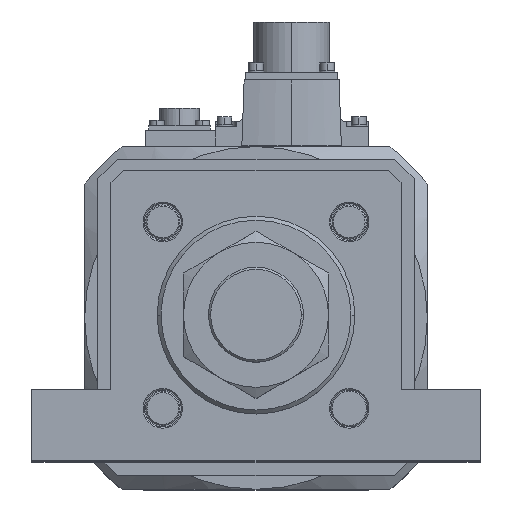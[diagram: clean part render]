
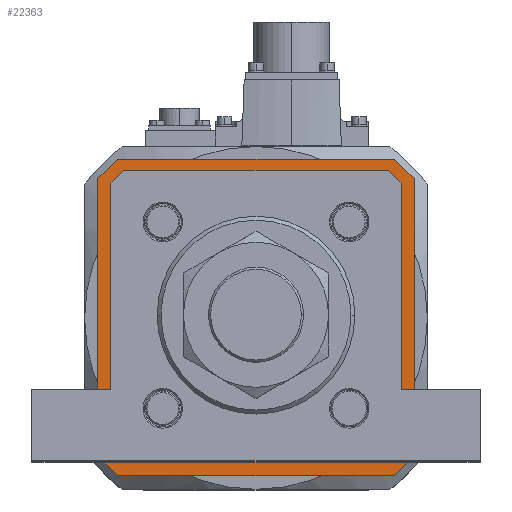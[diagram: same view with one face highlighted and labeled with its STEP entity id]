
A CAD part, top view. The second image highlights one B-rep face of the part: STEP entity #22363.
In plain terms, the highlighted planar face has unit normal (0, 0, 1) as drawn and (0, 0, -1) by its records, which use the part's own axes.
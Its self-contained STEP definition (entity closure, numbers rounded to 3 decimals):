
#191 = LINE ( 'NONE', #21604, #34297 ) ;
#701 = EDGE_CURVE ( 'NONE', #22434, #22728, #35879, .T. ) ;
#723 = LINE ( 'NONE', #7200, #23350 ) ;
#843 = VECTOR ( 'NONE', #15815, 1000. ) ;
#1149 = LINE ( 'NONE', #36408, #19638 ) ;
#1779 = LINE ( 'NONE', #4004, #9184 ) ;
#1838 = VERTEX_POINT ( 'NONE', #11925 ) ;
#2252 = VECTOR ( 'NONE', #14440, 1000. ) ;
#2886 = EDGE_CURVE ( 'NONE', #15665, #31906, #15079, .T. ) ;
#2961 = CARTESIAN_POINT ( 'NONE',  ( -49.593, -53.5, 52. ) ) ;
#2995 = VECTOR ( 'NONE', #10804, 1000. ) ;
#3031 = CARTESIAN_POINT ( 'NONE',  ( 60., 60., 52. ) ) ;
#3195 = ORIENTED_EDGE ( 'NONE', *, *, #9940, .F. ) ;
#3898 = DIRECTION ( 'NONE',  ( 0.707, 0.707, 0. ) ) ;
#4004 = CARTESIAN_POINT ( 'NONE',  ( -51.546, -51.546, 52. ) ) ;
#5116 = LINE ( 'NONE', #13487, #37386 ) ;
#5178 = VERTEX_POINT ( 'NONE', #17798 ) ;
#5656 = CARTESIAN_POINT ( 'NONE',  ( 60., 52.5, 52. ) ) ;
#5697 = CARTESIAN_POINT ( 'NONE',  ( 60., -52.5, 52. ) ) ;
#5796 = DIRECTION ( 'NONE',  ( 1., 0., 0. ) ) ;
#5819 = LINE ( 'NONE', #17571, #17369 ) ;
#6165 = EDGE_CURVE ( 'NONE', #9324, #10162, #5116, .T. ) ;
#6390 = DIRECTION ( 'NONE',  ( 0., 1., 0. ) ) ;
#6546 = CARTESIAN_POINT ( 'NONE',  ( -52.5, 60., 52. ) ) ;
#6695 = ORIENTED_EDGE ( 'NONE', *, *, #26139, .T. ) ;
#6697 = ORIENTED_EDGE ( 'NONE', *, *, #29635, .F. ) ;
#6770 = CARTESIAN_POINT ( 'NONE',  ( -49.8, 53.5, 52. ) ) ;
#7121 = VERTEX_POINT ( 'NONE', #9507 ) ;
#7200 = CARTESIAN_POINT ( 'NONE',  ( 60., -52.5, 52. ) ) ;
#7314 = DIRECTION ( 'NONE',  ( -1., 0., 0. ) ) ;
#7471 = ORIENTED_EDGE ( 'NONE', *, *, #701, .T. ) ;
#8043 = ORIENTED_EDGE ( 'NONE', *, *, #18272, .T. ) ;
#8472 = ORIENTED_EDGE ( 'NONE', *, *, #6165, .T. ) ;
#8599 = ORIENTED_EDGE ( 'NONE', *, *, #24141, .T. ) ;
#8826 = ORIENTED_EDGE ( 'NONE', *, *, #26475, .T. ) ;
#9002 = VECTOR ( 'NONE', #36535, 1000. ) ;
#9184 = VECTOR ( 'NONE', #18631, 1000. ) ;
#9256 = CARTESIAN_POINT ( 'NONE',  ( -53.5, -49.8, 52. ) ) ;
#9324 = VERTEX_POINT ( 'NONE', #34930 ) ;
#9507 = CARTESIAN_POINT ( 'NONE',  ( 49.593, -53.5, 52. ) ) ;
#9940 = EDGE_CURVE ( 'NONE', #9324, #17112, #30632, .T. ) ;
#10010 = CARTESIAN_POINT ( 'NONE',  ( -60., -52.5, 52. ) ) ;
#10068 = ORIENTED_EDGE ( 'NONE', *, *, #34553, .T. ) ;
#10162 = VERTEX_POINT ( 'NONE', #10010 ) ;
#10563 = CARTESIAN_POINT ( 'NONE',  ( -60., 52.5, 52. ) ) ;
#10617 = ORIENTED_EDGE ( 'NONE', *, *, #17050, .T. ) ;
#10804 = DIRECTION ( 'NONE',  ( -0.707, 0.707, 0. ) ) ;
#11228 = CARTESIAN_POINT ( 'NONE',  ( -60., 52.5, 52. ) ) ;
#11298 = VERTEX_POINT ( 'NONE', #13125 ) ;
#11784 = CARTESIAN_POINT ( 'NONE',  ( -51.546, 51.546, 52. ) ) ;
#11925 = CARTESIAN_POINT ( 'NONE',  ( 53.5, -49.593, 52. ) ) ;
#12380 = VERTEX_POINT ( 'NONE', #21547 ) ;
#13023 = CARTESIAN_POINT ( 'NONE',  ( -60., 60., 52. ) ) ;
#13125 = CARTESIAN_POINT ( 'NONE',  ( -49.593, 53.5, 52. ) ) ;
#13487 = CARTESIAN_POINT ( 'NONE',  ( -52.5, -60., 52. ) ) ;
#13489 = CARTESIAN_POINT ( 'NONE',  ( 49.593, 53.5, 52. ) ) ;
#14165 = VECTOR ( 'NONE', #6390, 1000. ) ;
#14440 = DIRECTION ( 'NONE',  ( 0.707, 0.707, 0. ) ) ;
#14531 = VECTOR ( 'NONE', #5796, 1000. ) ;
#14812 = ORIENTED_EDGE ( 'NONE', *, *, #25414, .T. ) ;
#15079 = LINE ( 'NONE', #3031, #14165 ) ;
#15503 = EDGE_CURVE ( 'NONE', #12380, #24425, #1779, .T. ) ;
#15665 = VERTEX_POINT ( 'NONE', #5697 ) ;
#15815 = DIRECTION ( 'NONE',  ( 0., 1., 0. ) ) ;
#15832 = AXIS2_PLACEMENT_3D ( 'NONE', #24375, #21922, #19342 ) ;
#15936 = CARTESIAN_POINT ( 'NONE',  ( 53.5, 49.8, 52. ) ) ;
#16859 = LINE ( 'NONE', #16865, #2995 ) ;
#16865 = CARTESIAN_POINT ( 'NONE',  ( 51.546, 51.546, 52. ) ) ;
#17050 = EDGE_CURVE ( 'NONE', #26409, #31906, #5819, .T. ) ;
#17112 = VERTEX_POINT ( 'NONE', #35174 ) ;
#17369 = VECTOR ( 'NONE', #23744, 1000. ) ;
#17571 = CARTESIAN_POINT ( 'NONE',  ( 52.5, 60., 52. ) ) ;
#17758 = EDGE_CURVE ( 'NONE', #26409, #22728, #1149, .T. ) ;
#17798 = CARTESIAN_POINT ( 'NONE',  ( -53.5, 49.593, 52. ) ) ;
#17872 = EDGE_CURVE ( 'NONE', #27961, #25586, #16859, .T. ) ;
#17966 = ORIENTED_EDGE ( 'NONE', *, *, #15503, .T. ) ;
#18272 = EDGE_CURVE ( 'NONE', #7121, #1838, #191, .T. ) ;
#18450 = EDGE_LOOP ( 'NONE', ( #3195, #8472, #6697, #7471, #26238, #10617, #25369, #8599 ) ) ;
#18456 = PLANE ( 'NONE',  #15832 ) ;
#18585 = CARTESIAN_POINT ( 'NONE',  ( 53.5, 49.593, 52. ) ) ;
#18631 = DIRECTION ( 'NONE',  ( 0.707, -0.707, 0. ) ) ;
#18843 = LINE ( 'NONE', #15936, #843 ) ;
#19342 = DIRECTION ( 'NONE',  ( 1., 0., 0. ) ) ;
#19638 = VECTOR ( 'NONE', #7314, 1000. ) ;
#20295 = DIRECTION ( 'NONE',  ( -0.707, -0.707, 0. ) ) ;
#20560 = LINE ( 'NONE', #13023, #9002 ) ;
#21547 = CARTESIAN_POINT ( 'NONE',  ( -53.5, -49.593, 52. ) ) ;
#21604 = CARTESIAN_POINT ( 'NONE',  ( 51.546, -51.546, 52. ) ) ;
#21758 = VECTOR ( 'NONE', #27065, 1000. ) ;
#21922 = DIRECTION ( 'NONE',  ( 0., 0., 1. ) ) ;
#22363 = ADVANCED_FACE ( 'NONE', ( #32596, #26646 ), #18456, .F. ) ;
#22434 = VERTEX_POINT ( 'NONE', #10563 ) ;
#22592 = CARTESIAN_POINT ( 'NONE',  ( 49.8, -53.5, 52. ) ) ;
#22728 = VERTEX_POINT ( 'NONE', #6546 ) ;
#23350 = VECTOR ( 'NONE', #30802, 1000. ) ;
#23596 = CARTESIAN_POINT ( 'NONE',  ( -60., -60., 52. ) ) ;
#23744 = DIRECTION ( 'NONE',  ( 0.707, -0.707, 0. ) ) ;
#24141 = EDGE_CURVE ( 'NONE', #15665, #17112, #723, .T. ) ;
#24375 = CARTESIAN_POINT ( 'NONE',  ( 0., 0., 52. ) ) ;
#24425 = VERTEX_POINT ( 'NONE', #2961 ) ;
#25369 = ORIENTED_EDGE ( 'NONE', *, *, #2886, .F. ) ;
#25414 = EDGE_CURVE ( 'NONE', #25586, #11298, #31979, .T. ) ;
#25495 = LINE ( 'NONE', #22592, #32384 ) ;
#25586 = VERTEX_POINT ( 'NONE', #13489 ) ;
#26139 = EDGE_CURVE ( 'NONE', #24425, #7121, #25495, .T. ) ;
#26238 = ORIENTED_EDGE ( 'NONE', *, *, #17758, .F. ) ;
#26409 = VERTEX_POINT ( 'NONE', #32844 ) ;
#26475 = EDGE_CURVE ( 'NONE', #5178, #12380, #34176, .T. ) ;
#26646 = FACE_OUTER_BOUND ( 'NONE', #18450, .T. ) ;
#26801 = VECTOR ( 'NONE', #20295, 1000. ) ;
#27065 = DIRECTION ( 'NONE',  ( 0., -1., 0. ) ) ;
#27212 = EDGE_CURVE ( 'NONE', #11298, #5178, #37796, .T. ) ;
#27419 = DIRECTION ( 'NONE',  ( -1., 0., 0. ) ) ;
#27961 = VERTEX_POINT ( 'NONE', #18585 ) ;
#28787 = VECTOR ( 'NONE', #27419, 1000. ) ;
#28995 = ORIENTED_EDGE ( 'NONE', *, *, #27212, .T. ) ;
#29635 = EDGE_CURVE ( 'NONE', #22434, #10162, #20560, .T. ) ;
#30632 = LINE ( 'NONE', #23596, #14531 ) ;
#30802 = DIRECTION ( 'NONE',  ( -0.707, -0.707, 0. ) ) ;
#31207 = DIRECTION ( 'NONE',  ( 1., 0., 0. ) ) ;
#31906 = VERTEX_POINT ( 'NONE', #5656 ) ;
#31979 = LINE ( 'NONE', #6770, #28787 ) ;
#32384 = VECTOR ( 'NONE', #31207, 1000. ) ;
#32596 = FACE_BOUND ( 'NONE', #36146, .T. ) ;
#32844 = CARTESIAN_POINT ( 'NONE',  ( 52.5, 60., 52. ) ) ;
#34176 = LINE ( 'NONE', #9256, #21758 ) ;
#34297 = VECTOR ( 'NONE', #3898, 1000. ) ;
#34553 = EDGE_CURVE ( 'NONE', #1838, #27961, #18843, .T. ) ;
#34930 = CARTESIAN_POINT ( 'NONE',  ( -52.5, -60., 52. ) ) ;
#35174 = CARTESIAN_POINT ( 'NONE',  ( 52.5, -60., 52. ) ) ;
#35460 = ORIENTED_EDGE ( 'NONE', *, *, #17872, .T. ) ;
#35879 = LINE ( 'NONE', #11228, #2252 ) ;
#36146 = EDGE_LOOP ( 'NONE', ( #35460, #14812, #28995, #8826, #17966, #6695, #8043, #10068 ) ) ;
#36408 = CARTESIAN_POINT ( 'NONE',  ( -60., 60., 52. ) ) ;
#36535 = DIRECTION ( 'NONE',  ( 0., -1., 0. ) ) ;
#37006 = DIRECTION ( 'NONE',  ( -0.707, 0.707, 0. ) ) ;
#37386 = VECTOR ( 'NONE', #37006, 1000. ) ;
#37796 = LINE ( 'NONE', #11784, #26801 ) ;
